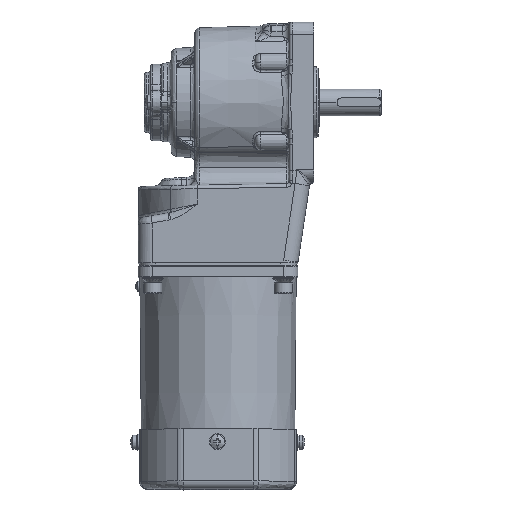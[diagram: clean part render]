
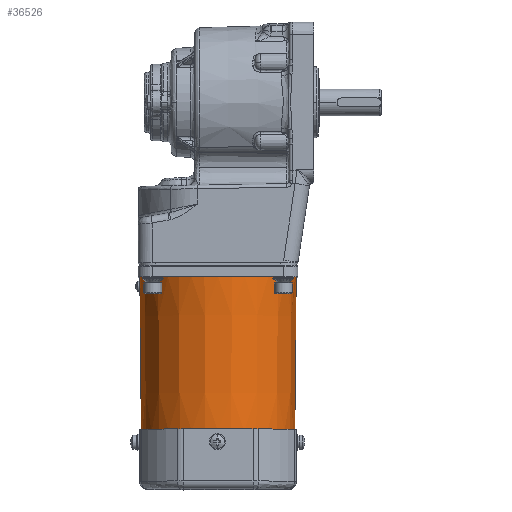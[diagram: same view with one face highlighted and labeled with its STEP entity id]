
A CAD part, top view. The second image highlights one B-rep face of the part: STEP entity #36526.
In plain terms, the highlighted conical face has half-angle 0.503 degrees and reference radius 44 mm.
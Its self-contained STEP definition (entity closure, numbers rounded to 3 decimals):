
#1553 = LINE ( 'NONE', #8757, #2109 ) ;
#1646 = VERTEX_POINT ( 'NONE', #80229 ) ;
#2109 = VECTOR ( 'NONE', #63839, 1000. ) ;
#4569 = CARTESIAN_POINT ( 'NONE',  ( 26.603, 7.803, 162.808 ) ) ;
#6232 = AXIS2_PLACEMENT_3D ( 'NONE', #33453, #36050, #33539 ) ;
#6962 = CARTESIAN_POINT ( 'NONE',  ( -60.397, 7.803, 206.045 ) ) ;
#8757 = CARTESIAN_POINT ( 'NONE',  ( 26.603, 7.803, 118.808 ) ) ;
#11473 = CARTESIAN_POINT ( 'NONE',  ( 26.603, 7.803, 118.808 ) ) ;
#11494 = DIRECTION ( 'NONE',  ( 0., 0., -1. ) ) ;
#12539 = VERTEX_POINT ( 'NONE', #17150 ) ;
#17150 = CARTESIAN_POINT ( 'NONE',  ( -60.397, 7.803, 206.045 ) ) ;
#17616 = VERTEX_POINT ( 'NONE', #25427 ) ;
#20154 = ORIENTED_EDGE ( 'NONE', *, *, #55357, .T. ) ;
#25038 = DIRECTION ( 'NONE',  ( 1., 0., 0. ) ) ;
#25427 = CARTESIAN_POINT ( 'NONE',  ( -60.397, 7.803, 119.572 ) ) ;
#26196 = EDGE_CURVE ( 'NONE', #12539, #68918, #57939, .T. ) ;
#30341 = ORIENTED_EDGE ( 'NONE', *, *, #55225, .T. ) ;
#33453 = CARTESIAN_POINT ( 'NONE',  ( 26.603, 7.803, 162.808 ) ) ;
#33539 = DIRECTION ( 'NONE',  ( 0., 0., -1. ) ) ;
#35512 = DIRECTION ( 'NONE',  ( 1., 0., 0.009 ) ) ;
#35826 = CARTESIAN_POINT ( 'NONE',  ( 26.603, 7.803, 206.808 ) ) ;
#36050 = DIRECTION ( 'NONE',  ( 1., 0., 0. ) ) ;
#36526 = ADVANCED_FACE ( 'NONE', ( #55099 ), #56758, .T. ) ;
#39643 = CARTESIAN_POINT ( 'NONE',  ( 16.603, 7.803, 206.721 ) ) ;
#42448 = CIRCLE ( 'NONE', #78934, 44. ) ;
#42462 = CIRCLE ( 'NONE', #79050, 43.236 ) ;
#44296 = VECTOR ( 'NONE', #55128, 1000. ) ;
#44473 = LINE ( 'NONE', #6962, #44296 ) ;
#52711 = DIRECTION ( 'NONE',  ( -1., 0., 0. ) ) ;
#52848 = EDGE_CURVE ( 'NONE', #17616, #78599, #1553, .T. ) ;
#52870 = ORIENTED_EDGE ( 'NONE', *, *, #55239, .T. ) ;
#55099 = FACE_OUTER_BOUND ( 'NONE', #86062, .T. ) ;
#55128 = DIRECTION ( 'NONE',  ( -1., 0., -0.009 ) ) ;
#55225 = EDGE_CURVE ( 'NONE', #12539, #17616, #42462, .T. ) ;
#55239 = EDGE_CURVE ( 'NONE', #78599, #1646, #42448, .T. ) ;
#55357 = EDGE_CURVE ( 'NONE', #1646, #68918, #44473, .T. ) ;
#56758 = CONICAL_SURFACE ( 'NONE', #6232, 44., 0.009 ) ;
#57418 = VECTOR ( 'NONE', #35512, 1000. ) ;
#57939 = LINE ( 'NONE', #35826, #57418 ) ;
#62380 = ORIENTED_EDGE ( 'NONE', *, *, #26196, .F. ) ;
#63839 = DIRECTION ( 'NONE',  ( 1., 0., -0.009 ) ) ;
#65355 = ORIENTED_EDGE ( 'NONE', *, *, #52848, .T. ) ;
#66290 = CARTESIAN_POINT ( 'NONE',  ( -60.397, 7.803, 162.808 ) ) ;
#68918 = VERTEX_POINT ( 'NONE', #39643 ) ;
#73268 = DIRECTION ( 'NONE',  ( 0., 0., -1. ) ) ;
#78599 = VERTEX_POINT ( 'NONE', #11473 ) ;
#78934 = AXIS2_PLACEMENT_3D ( 'NONE', #4569, #52711, #11494 ) ;
#79050 = AXIS2_PLACEMENT_3D ( 'NONE', #66290, #25038, #73268 ) ;
#80229 = CARTESIAN_POINT ( 'NONE',  ( 26.603, 7.803, 206.808 ) ) ;
#86062 = EDGE_LOOP ( 'NONE', ( #62380, #30341, #65355, #52870, #20154 ) ) ;
